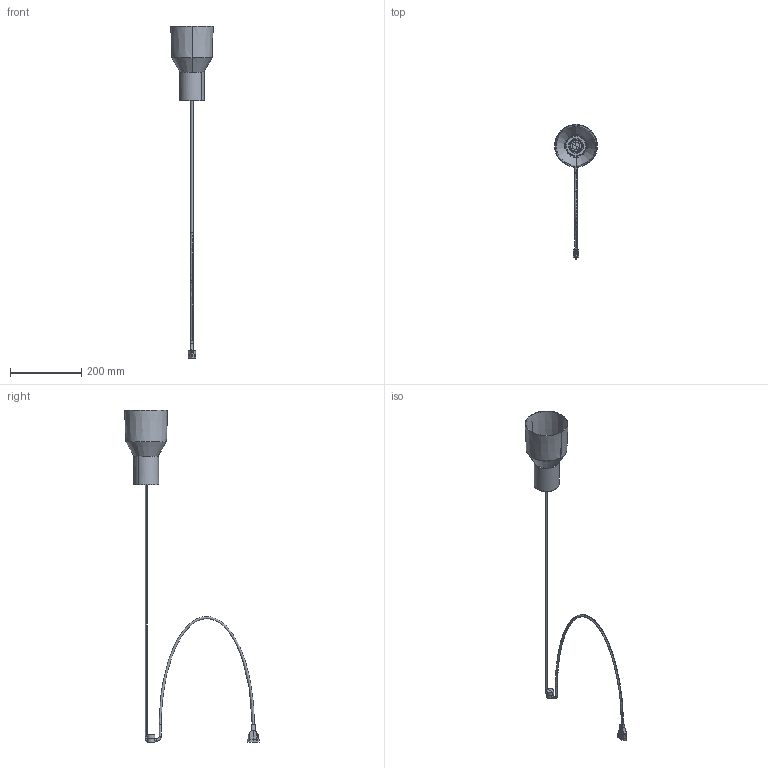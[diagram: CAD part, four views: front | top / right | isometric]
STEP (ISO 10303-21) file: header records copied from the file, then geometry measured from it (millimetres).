
FILE_DESCRIPTION(/* description */ (''),/* implementation_level */ '2;1');
FILE_NAME(/* name */ 'C:\Users\Franco Sartori E\Documents\FARO\DUPLICADO\Modelos\01_Digitalizados\2021\KOMBO\03_Publicación\68604-63_ceiling.stp',/* time_stamp */ '2021-02-24T09:50:04+01:00',/* author */ ('Franco Sartori E'),/* organization */ (''),/* preprocessor_version */ 'ST-DEVELOPER v18.1',/* originating_system */ 'AutoCAD Mechanical',/* authorisation */ '');
FILE_SCHEMA (('AUTOMOTIVE_DESIGN { 1 0 10303 214 3 1 1 }'));
Length unit declared in the file: millimetre
Products named in the file (5): Product; 68604_Ceiling - LH-462663-_3D_; LAMP HOLDER - LH-462606-_3D_; 68604_Wall - LH-462664-_3D_; 68592_68591_KOMBO_LAMP - KOMBO Lamp Holder-462666-_3D_
Assembly tree (4 placements, depth 2):
  Product
    68604_Ceiling - LH-462663-_3D_
    LAMP HOLDER - LH-462606-_3D_
    68604_Wall - LH-462664-_3D_
    68592_68591_KOMBO_LAMP - KOMBO Lamp Holder-462666-_3D_
Bounding box: 120 x 376.99 x 929.54 mm (x, y, z)
Volume: 221415.1 mm3; surface area: 317149.3 mm2
Topology: 11 solids, 13 shells, 258 faces, 610 edges, 364 vertices
Faces by surface type: plane 105, cylinder 87, torus 32, cone 32, bspline 2
Entity records: 9508 total; most frequent: CARTESIAN_POINT 3670, ORIENTED_EDGE 1203, DIRECTION 1174, EDGE_CURVE 608, AXIS2_PLACEMENT_3D 456, VERTEX_POINT 364, LINE 262, VECTOR 262
